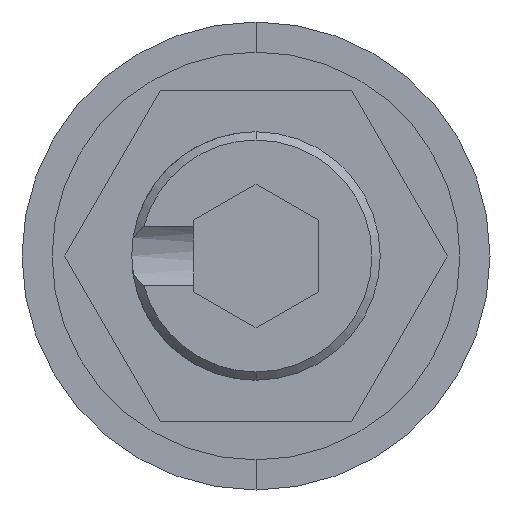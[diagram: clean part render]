
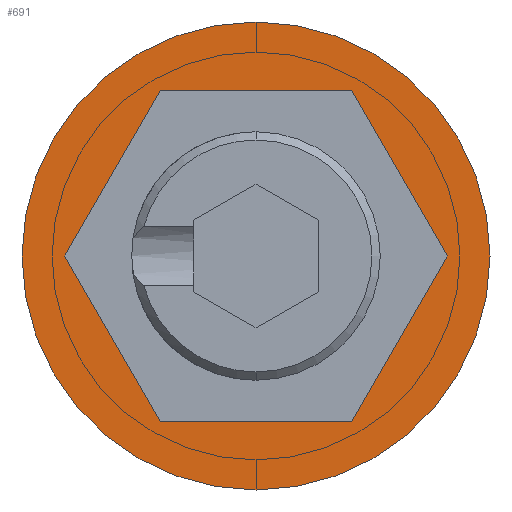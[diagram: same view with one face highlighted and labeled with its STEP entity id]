
A CAD part, front view. The second image highlights one B-rep face of the part: STEP entity #691.
In plain terms, the highlighted planar face has unit normal (0, -1, 0).
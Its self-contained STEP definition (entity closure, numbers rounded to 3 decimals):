
#44 = CARTESIAN_POINT ( 'NONE',  ( 0., 0., 5.65 ) ) ;
#139 = VERTEX_POINT ( 'NONE', #823 ) ;
#161 = EDGE_LOOP ( 'NONE', ( #501, #786 ) ) ;
#174 = DIRECTION ( 'NONE',  ( -0.5, 0., -0.866 ) ) ;
#272 = CARTESIAN_POINT ( 'NONE',  ( 2.309, 0., 4. ) ) ;
#278 = LINE ( 'NONE', #816, #1968 ) ;
#305 = VERTEX_POINT ( 'NONE', #44 ) ;
#330 = CIRCLE ( 'NONE', #2062, 5.65 ) ;
#356 = ORIENTED_EDGE ( 'NONE', *, *, #1199, .F. ) ;
#358 = DIRECTION ( 'NONE',  ( 0., -1., 0. ) ) ;
#369 = VECTOR ( 'NONE', #174, 1000. ) ;
#457 = VERTEX_POINT ( 'NONE', #768 ) ;
#485 = CARTESIAN_POINT ( 'NONE',  ( 2.309, 0., -4. ) ) ;
#499 = DIRECTION ( 'NONE',  ( 0.5, 0., 0.866 ) ) ;
#501 = ORIENTED_EDGE ( 'NONE', *, *, #1492, .T. ) ;
#515 = CARTESIAN_POINT ( 'NONE',  ( -2.309, 0., 4. ) ) ;
#607 = CARTESIAN_POINT ( 'NONE',  ( 0., 0., -5.65 ) ) ;
#616 = EDGE_LOOP ( 'NONE', ( #1002, #1282, #1097, #795, #1148, #356 ) ) ;
#646 = CARTESIAN_POINT ( 'NONE',  ( 2.309, 0., -4. ) ) ;
#655 = CARTESIAN_POINT ( 'NONE',  ( 0., 0., 0. ) ) ;
#673 = VERTEX_POINT ( 'NONE', #968 ) ;
#691 = ADVANCED_FACE ( 'NONE', ( #1118, #731 ), #1091, .T. ) ;
#731 = FACE_OUTER_BOUND ( 'NONE', #161, .T. ) ;
#768 = CARTESIAN_POINT ( 'NONE',  ( -2.309, 0., -4. ) ) ;
#778 = VECTOR ( 'NONE', #1919, 1000. ) ;
#786 = ORIENTED_EDGE ( 'NONE', *, *, #2044, .T. ) ;
#795 = ORIENTED_EDGE ( 'NONE', *, *, #2027, .F. ) ;
#804 = VERTEX_POINT ( 'NONE', #272 ) ;
#816 = CARTESIAN_POINT ( 'NONE',  ( -2.309, 0., -4. ) ) ;
#823 = CARTESIAN_POINT ( 'NONE',  ( -4.619, 0., 0. ) ) ;
#828 = LINE ( 'NONE', #485, #1664 ) ;
#829 = AXIS2_PLACEMENT_3D ( 'NONE', #1222, #1290, #1296 ) ;
#879 = AXIS2_PLACEMENT_3D ( 'NONE', #655, #358, #1820 ) ;
#888 = VECTOR ( 'NONE', #1831, 1000. ) ;
#932 = VERTEX_POINT ( 'NONE', #515 ) ;
#968 = CARTESIAN_POINT ( 'NONE',  ( 4.619, 0., 0. ) ) ;
#1002 = ORIENTED_EDGE ( 'NONE', *, *, #1496, .F. ) ;
#1091 = PLANE ( 'NONE',  #829 ) ;
#1097 = ORIENTED_EDGE ( 'NONE', *, *, #2043, .F. ) ;
#1118 = FACE_BOUND ( 'NONE', #616, .T. ) ;
#1148 = ORIENTED_EDGE ( 'NONE', *, *, #1652, .F. ) ;
#1160 = CARTESIAN_POINT ( 'NONE',  ( 0., 0., 0. ) ) ;
#1180 = DIRECTION ( 'NONE',  ( 0., -1., 0. ) ) ;
#1193 = CARTESIAN_POINT ( 'NONE',  ( -4.619, 0., 0. ) ) ;
#1199 = EDGE_CURVE ( 'NONE', #2015, #673, #828, .T. ) ;
#1222 = CARTESIAN_POINT ( 'NONE',  ( 0., 0., 0. ) ) ;
#1241 = CIRCLE ( 'NONE', #879, 5.65 ) ;
#1269 = VECTOR ( 'NONE', #1517, 1000. ) ;
#1282 = ORIENTED_EDGE ( 'NONE', *, *, #1822, .F. ) ;
#1290 = DIRECTION ( 'NONE',  ( 0., -1., 0. ) ) ;
#1295 = LINE ( 'NONE', #1824, #369 ) ;
#1296 = DIRECTION ( 'NONE',  ( 0., 0., -1. ) ) ;
#1314 = DIRECTION ( 'NONE',  ( 0., 0., -1. ) ) ;
#1336 = DIRECTION ( 'NONE',  ( 1., 0., 0. ) ) ;
#1492 = EDGE_CURVE ( 'NONE', #1627, #305, #330, .T. ) ;
#1496 = EDGE_CURVE ( 'NONE', #457, #2015, #278, .T. ) ;
#1517 = DIRECTION ( 'NONE',  ( 0.5, 0., -0.866 ) ) ;
#1627 = VERTEX_POINT ( 'NONE', #607 ) ;
#1652 = EDGE_CURVE ( 'NONE', #673, #804, #2098, .T. ) ;
#1664 = VECTOR ( 'NONE', #499, 1000. ) ;
#1702 = LINE ( 'NONE', #1193, #1269 ) ;
#1788 = CARTESIAN_POINT ( 'NONE',  ( 4.619, 0., 0. ) ) ;
#1820 = DIRECTION ( 'NONE',  ( 0., 0., -1. ) ) ;
#1822 = EDGE_CURVE ( 'NONE', #139, #457, #1702, .T. ) ;
#1824 = CARTESIAN_POINT ( 'NONE',  ( -2.309, 0., 4. ) ) ;
#1831 = DIRECTION ( 'NONE',  ( -1., 0., 0. ) ) ;
#1839 = CARTESIAN_POINT ( 'NONE',  ( 2.309, 0., 4. ) ) ;
#1919 = DIRECTION ( 'NONE',  ( -0.5, 0., 0.866 ) ) ;
#1968 = VECTOR ( 'NONE', #1336, 1000. ) ;
#2015 = VERTEX_POINT ( 'NONE', #646 ) ;
#2027 = EDGE_CURVE ( 'NONE', #804, #932, #2106, .T. ) ;
#2043 = EDGE_CURVE ( 'NONE', #932, #139, #1295, .T. ) ;
#2044 = EDGE_CURVE ( 'NONE', #305, #1627, #1241, .T. ) ;
#2062 = AXIS2_PLACEMENT_3D ( 'NONE', #1160, #1180, #1314 ) ;
#2098 = LINE ( 'NONE', #1788, #778 ) ;
#2106 = LINE ( 'NONE', #1839, #888 ) ;
